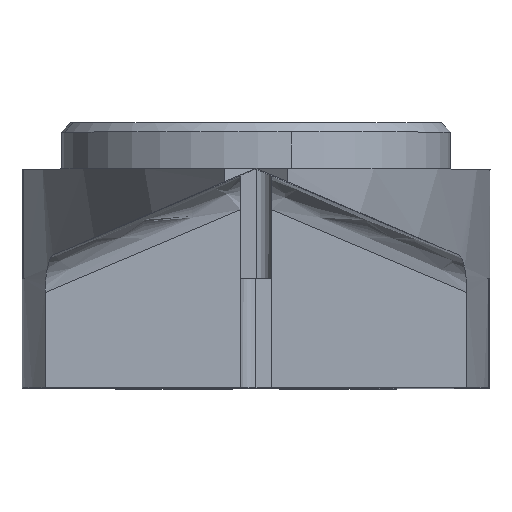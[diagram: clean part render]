
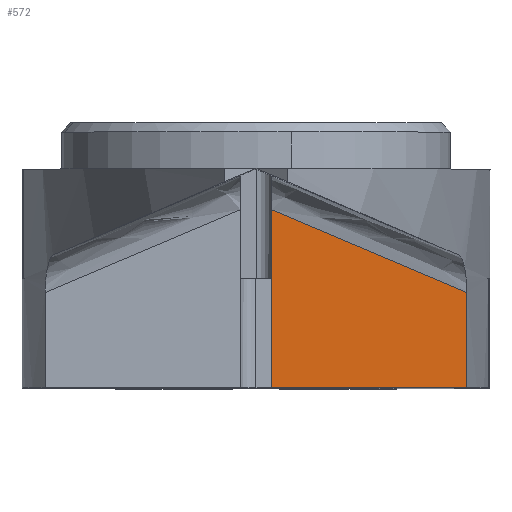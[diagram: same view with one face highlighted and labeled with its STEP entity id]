
A CAD part, top view. The second image highlights one B-rep face of the part: STEP entity #572.
In plain terms, the highlighted planar face has unit normal (0, 0, 1) as drawn and (0.091, 0, 0.996) by its records, which use the part's own axes.
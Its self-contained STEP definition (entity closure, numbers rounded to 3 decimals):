
#167 = LINE ( 'NONE', #504, #4284 ) ;
#286 = CARTESIAN_POINT ( 'NONE',  ( 7.636, -6.153, 33.344 ) ) ;
#386 = LINE ( 'NONE', #3192, #2315 ) ;
#504 = CARTESIAN_POINT ( 'NONE',  ( 1.408, -6.332, 33.913 ) ) ;
#572 = ADVANCED_FACE ( 'NONE', ( #1442 ), #1460, .T. ) ;
#579 = CARTESIAN_POINT ( 'NONE',  ( 1.408, -9.2, 33.913 ) ) ;
#1173 = EDGE_LOOP ( 'NONE', ( #3703, #4757, #4664, #3485 ) ) ;
#1317 = EDGE_CURVE ( 'NONE', #4694, #4260, #4457, .T. ) ;
#1372 = VECTOR ( 'NONE', #2442, 1000. ) ;
#1385 = CARTESIAN_POINT ( 'NONE',  ( 1.408, -3.499, 33.913 ) ) ;
#1442 = FACE_OUTER_BOUND ( 'NONE', #1173, .T. ) ;
#1451 = DIRECTION ( 'NONE',  ( 0.996, 0., -0.091 ) ) ;
#1460 = PLANE ( 'NONE',  #4714 ) ;
#1532 = VECTOR ( 'NONE', #3920, 1000. ) ;
#1587 = VERTEX_POINT ( 'NONE', #1385 ) ;
#1678 = DIRECTION ( 'NONE',  ( -0.917, 0.391, 0.084 ) ) ;
#2127 = EDGE_CURVE ( 'NONE', #4694, #1587, #386, .T. ) ;
#2315 = VECTOR ( 'NONE', #1678, 1000. ) ;
#2442 = DIRECTION ( 'NONE',  ( 0., -1., 0. ) ) ;
#2447 = CARTESIAN_POINT ( 'NONE',  ( 7.636, -9.2, 33.344 ) ) ;
#2564 = CARTESIAN_POINT ( 'NONE',  ( 1.408, -9.2, 33.913 ) ) ;
#2682 = EDGE_CURVE ( 'NONE', #4260, #4634, #3577, .T. ) ;
#2728 = CARTESIAN_POINT ( 'NONE',  ( 4.869, -9.2, 33.597 ) ) ;
#2730 = CARTESIAN_POINT ( 'NONE',  ( 7.636, -5.7, 33.344 ) ) ;
#2853 = DIRECTION ( 'NONE',  ( 0.091, 0., 0.996 ) ) ;
#3183 = DIRECTION ( 'NONE',  ( 0., -1., 0. ) ) ;
#3192 = CARTESIAN_POINT ( 'NONE',  ( 7.636, -6.153, 33.344 ) ) ;
#3485 = ORIENTED_EDGE ( 'NONE', *, *, #3497, .T. ) ;
#3497 = EDGE_CURVE ( 'NONE', #1587, #4634, #167, .T. ) ;
#3577 = LINE ( 'NONE', #2728, #1532 ) ;
#3703 = ORIENTED_EDGE ( 'NONE', *, *, #2682, .F. ) ;
#3920 = DIRECTION ( 'NONE',  ( -0.996, 0., 0.091 ) ) ;
#4260 = VERTEX_POINT ( 'NONE', #2447 ) ;
#4284 = VECTOR ( 'NONE', #3183, 1000. ) ;
#4457 = LINE ( 'NONE', #2730, #1372 ) ;
#4634 = VERTEX_POINT ( 'NONE', #579 ) ;
#4664 = ORIENTED_EDGE ( 'NONE', *, *, #2127, .T. ) ;
#4694 = VERTEX_POINT ( 'NONE', #286 ) ;
#4714 = AXIS2_PLACEMENT_3D ( 'NONE', #2564, #2853, #1451 ) ;
#4757 = ORIENTED_EDGE ( 'NONE', *, *, #1317, .F. ) ;
